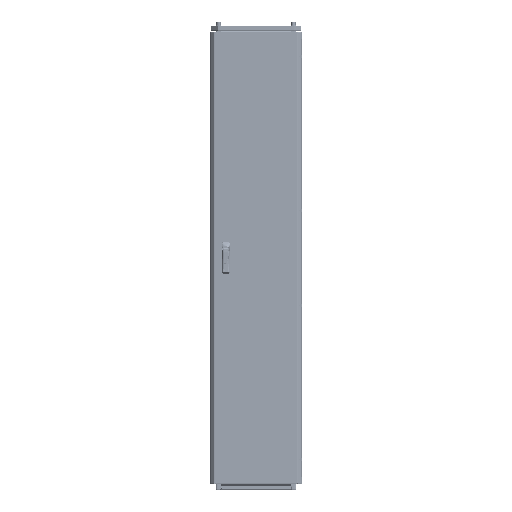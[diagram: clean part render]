
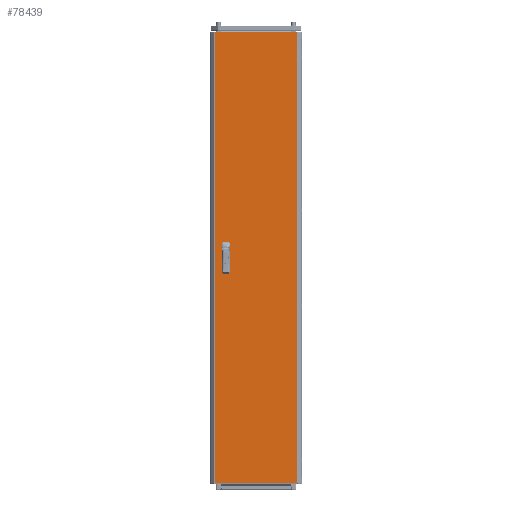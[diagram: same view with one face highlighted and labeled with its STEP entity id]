
A CAD part, top view. The second image highlights one B-rep face of the part: STEP entity #78439.
In plain terms, the highlighted planar face has unit normal (0, 0, 1).
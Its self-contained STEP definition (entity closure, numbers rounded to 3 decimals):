
#8207 = ORIENTED_EDGE ( 'NONE', *, *, #32401, .F. ) ;
#13065 = DIRECTION ( 'NONE',  ( 0., -1., 0. ) ) ;
#13917 = CARTESIAN_POINT ( 'NONE',  ( -142.5, 12.5, 0. ) ) ;
#20479 = VECTOR ( 'NONE', #188441, 1000. ) ;
#22168 = VERTEX_POINT ( 'NONE', #158648 ) ;
#23785 = PLANE ( 'NONE',  #121079 ) ;
#24205 = EDGE_CURVE ( 'NONE', #59019, #22168, #148054, .T. ) ;
#24312 = LINE ( 'NONE', #124129, #66678 ) ;
#24831 = DIRECTION ( 'NONE',  ( -1., 0., 0. ) ) ;
#32309 = CARTESIAN_POINT ( 'NONE',  ( -117.5, -12.5, 0. ) ) ;
#32401 = EDGE_CURVE ( 'NONE', #229012, #59019, #150316, .T. ) ;
#33087 = DIRECTION ( 'NONE',  ( 0., -1., 0. ) ) ;
#33909 = VERTEX_POINT ( 'NONE', #227084 ) ;
#34108 = DIRECTION ( 'NONE',  ( 0., -1., 0. ) ) ;
#37215 = VECTOR ( 'NONE', #13065, 1000. ) ;
#41502 = FACE_BOUND ( 'NONE', #249012, .T. ) ;
#41650 = CARTESIAN_POINT ( 'NONE',  ( -117.5, -62.5, 0. ) ) ;
#45155 = CARTESIAN_POINT ( 'NONE',  ( 177.875, -969.5, 0. ) ) ;
#47321 = VECTOR ( 'NONE', #247039, 1000. ) ;
#48346 = CARTESIAN_POINT ( 'NONE',  ( -177.875, -969.5, 0. ) ) ;
#53305 = EDGE_CURVE ( 'NONE', #202025, #144965, #24312, .T. ) ;
#55777 = CARTESIAN_POINT ( 'NONE',  ( -177.875, -969.5, 0. ) ) ;
#56358 = EDGE_CURVE ( 'NONE', #169565, #180388, #192436, .T. ) ;
#58405 = DIRECTION ( 'NONE',  ( -1., 0., 0. ) ) ;
#58585 = VECTOR ( 'NONE', #208749, 1000. ) ;
#59019 = VERTEX_POINT ( 'NONE', #148382 ) ;
#61305 = VECTOR ( 'NONE', #33087, 1000. ) ;
#66678 = VECTOR ( 'NONE', #196285, 1000. ) ;
#69995 = CARTESIAN_POINT ( 'NONE',  ( -142.5, -62.5, 0. ) ) ;
#72101 = EDGE_CURVE ( 'NONE', #93331, #198878, #107756, .T. ) ;
#72115 = VERTEX_POINT ( 'NONE', #186103 ) ;
#78439 = ADVANCED_FACE ( 'NONE', ( #41502, #157837, #198213 ), #23785, .F. ) ;
#80766 = EDGE_CURVE ( 'NONE', #72115, #201977, #87496, .T. ) ;
#81788 = CARTESIAN_POINT ( 'NONE',  ( -142.5, 62.5, 0. ) ) ;
#83040 = LINE ( 'NONE', #69995, #37215 ) ;
#83165 = CARTESIAN_POINT ( 'NONE',  ( 0., 0., 0. ) ) ;
#87496 = LINE ( 'NONE', #48346, #61305 ) ;
#88188 = VECTOR ( 'NONE', #24831, 1000. ) ;
#88330 = VECTOR ( 'NONE', #34108, 1000. ) ;
#93331 = VERTEX_POINT ( 'NONE', #45155 ) ;
#100645 = EDGE_CURVE ( 'NONE', #198878, #72115, #124626, .T. ) ;
#101257 = EDGE_LOOP ( 'NONE', ( #165563, #102005, #181335, #112673 ) ) ;
#102005 = ORIENTED_EDGE ( 'NONE', *, *, #148869, .F. ) ;
#104491 = LINE ( 'NONE', #81788, #198961 ) ;
#107756 = LINE ( 'NONE', #205075, #248694 ) ;
#108838 = CARTESIAN_POINT ( 'NONE',  ( -117.5, 12.5, 0. ) ) ;
#109870 = CARTESIAN_POINT ( 'NONE',  ( -142.5, 12.5, 0. ) ) ;
#112673 = ORIENTED_EDGE ( 'NONE', *, *, #161041, .F. ) ;
#113584 = DIRECTION ( 'NONE',  ( 1., 0., 0. ) ) ;
#121079 = AXIS2_PLACEMENT_3D ( 'NONE', #83165, #138861, #234866 ) ;
#124129 = CARTESIAN_POINT ( 'NONE',  ( -142.5, -62.5, 0. ) ) ;
#124537 = VECTOR ( 'NONE', #58405, 1000. ) ;
#124626 = LINE ( 'NONE', #180299, #88188 ) ;
#130212 = LINE ( 'NONE', #13917, #88330 ) ;
#133314 = LINE ( 'NONE', #225600, #47321 ) ;
#138861 = DIRECTION ( 'NONE',  ( 0., 0., -1. ) ) ;
#139306 = CARTESIAN_POINT ( 'NONE',  ( -177.875, -969.5, 0. ) ) ;
#142227 = ORIENTED_EDGE ( 'NONE', *, *, #72101, .T. ) ;
#142525 = EDGE_CURVE ( 'NONE', #201977, #93331, #227692, .T. ) ;
#144965 = VERTEX_POINT ( 'NONE', #41650 ) ;
#148054 = LINE ( 'NONE', #108838, #20479 ) ;
#148222 = DIRECTION ( 'NONE',  ( 0., 1., 0. ) ) ;
#148382 = CARTESIAN_POINT ( 'NONE',  ( -117.5, 12.5, 0. ) ) ;
#148869 = EDGE_CURVE ( 'NONE', #144965, #169565, #133314, .T. ) ;
#149832 = EDGE_CURVE ( 'NONE', #33909, #229012, #130212, .T. ) ;
#150316 = LINE ( 'NONE', #109870, #155575 ) ;
#155575 = VECTOR ( 'NONE', #113584, 1000. ) ;
#157837 = FACE_BOUND ( 'NONE', #101257, .T. ) ;
#158648 = CARTESIAN_POINT ( 'NONE',  ( -117.5, 62.5, 0. ) ) ;
#158969 = DIRECTION ( 'NONE',  ( -1., 0., 0. ) ) ;
#161041 = EDGE_CURVE ( 'NONE', #180388, #202025, #83040, .T. ) ;
#165563 = ORIENTED_EDGE ( 'NONE', *, *, #56358, .F. ) ;
#168698 = ORIENTED_EDGE ( 'NONE', *, *, #149832, .F. ) ;
#169565 = VERTEX_POINT ( 'NONE', #32309 ) ;
#180299 = CARTESIAN_POINT ( 'NONE',  ( -177.875, 969.5, 0. ) ) ;
#180388 = VERTEX_POINT ( 'NONE', #184396 ) ;
#181335 = ORIENTED_EDGE ( 'NONE', *, *, #53305, .F. ) ;
#184396 = CARTESIAN_POINT ( 'NONE',  ( -142.5, -12.5, 0. ) ) ;
#185053 = ORIENTED_EDGE ( 'NONE', *, *, #142525, .T. ) ;
#185446 = ORIENTED_EDGE ( 'NONE', *, *, #24205, .F. ) ;
#186103 = CARTESIAN_POINT ( 'NONE',  ( -177.875, 969.5, 0. ) ) ;
#188441 = DIRECTION ( 'NONE',  ( 0., 1., 0. ) ) ;
#192436 = LINE ( 'NONE', #226557, #124537 ) ;
#195866 = ORIENTED_EDGE ( 'NONE', *, *, #100645, .T. ) ;
#196285 = DIRECTION ( 'NONE',  ( 1., 0., 0. ) ) ;
#198213 = FACE_OUTER_BOUND ( 'NONE', #247864, .T. ) ;
#198878 = VERTEX_POINT ( 'NONE', #230034 ) ;
#198961 = VECTOR ( 'NONE', #158969, 1000. ) ;
#201977 = VERTEX_POINT ( 'NONE', #139306 ) ;
#202025 = VERTEX_POINT ( 'NONE', #239034 ) ;
#205075 = CARTESIAN_POINT ( 'NONE',  ( 177.875, -969.5, 0. ) ) ;
#208749 = DIRECTION ( 'NONE',  ( 1., 0., 0. ) ) ;
#209201 = ORIENTED_EDGE ( 'NONE', *, *, #246043, .F. ) ;
#211334 = CARTESIAN_POINT ( 'NONE',  ( -142.5, 12.5, 0. ) ) ;
#225600 = CARTESIAN_POINT ( 'NONE',  ( -117.5, -62.5, 0. ) ) ;
#226557 = CARTESIAN_POINT ( 'NONE',  ( -142.5, -12.5, 0. ) ) ;
#227084 = CARTESIAN_POINT ( 'NONE',  ( -142.5, 62.5, 0. ) ) ;
#227692 = LINE ( 'NONE', #55777, #58585 ) ;
#229012 = VERTEX_POINT ( 'NONE', #211334 ) ;
#230034 = CARTESIAN_POINT ( 'NONE',  ( 177.875, 969.5, 0. ) ) ;
#231703 = ORIENTED_EDGE ( 'NONE', *, *, #80766, .T. ) ;
#234866 = DIRECTION ( 'NONE',  ( -1., 0., 0. ) ) ;
#239034 = CARTESIAN_POINT ( 'NONE',  ( -142.5, -62.5, 0. ) ) ;
#246043 = EDGE_CURVE ( 'NONE', #22168, #33909, #104491, .T. ) ;
#247039 = DIRECTION ( 'NONE',  ( 0., 1., 0. ) ) ;
#247864 = EDGE_LOOP ( 'NONE', ( #142227, #195866, #231703, #185053 ) ) ;
#248694 = VECTOR ( 'NONE', #148222, 1000. ) ;
#249012 = EDGE_LOOP ( 'NONE', ( #209201, #185446, #8207, #168698 ) ) ;
